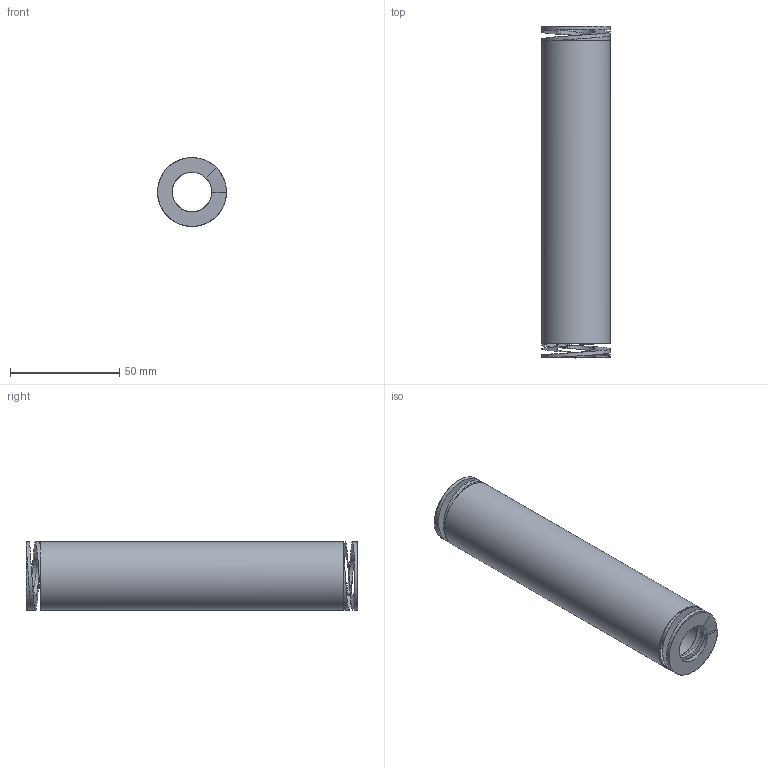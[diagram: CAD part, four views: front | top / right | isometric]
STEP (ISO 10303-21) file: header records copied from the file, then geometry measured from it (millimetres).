
FILE_DESCRIPTION(/* description */ ('Max 40% | 60.8 | 1307'),/* implementation_level */ '2;1');
FILE_NAME(/* name */ '1S32151.step',/* time_stamp */ '2026-10-07T11:19:34+02:00',/* author */ ('1S'),/* organization */ ('6,7x3,3 prostokatny'),/* preprocessor_version */ 'ST-DEVELOPER v20.1',/* originating_system */ 'Autodesk Inventor 2026',/* authorisation */ '21.5');
FILE_SCHEMA (('AUTOMOTIVE_DESIGN { 1 0 10303 214 3 1 1 }'));
Length unit declared in the file: millimetre
Products named in the file (1): 1S32151
Bounding box: 31.51 x 152 x 31.5 mm (x, y, z)
Volume: 76727.1 mm3; surface area: 26572.1 mm2
Topology: 1 solids, 1 shells, 22 faces, 64 edges, 40 vertices
Faces by surface type: bspline 14, plane 6, cylinder 2
Full cylindrical faces by diameter (mm): 18.099 x1, 31.501 x1
Entity records: 2824 total; most frequent: CARTESIAN_POINT 2348, ORIENTED_EDGE 120, EDGE_CURVE 60, B_SPLINE_CURVE_WITH_KNOTS 48, VERTEX_POINT 38, DIRECTION 34, EDGE_LOOP 26, FACE_OUTER_BOUND 22
